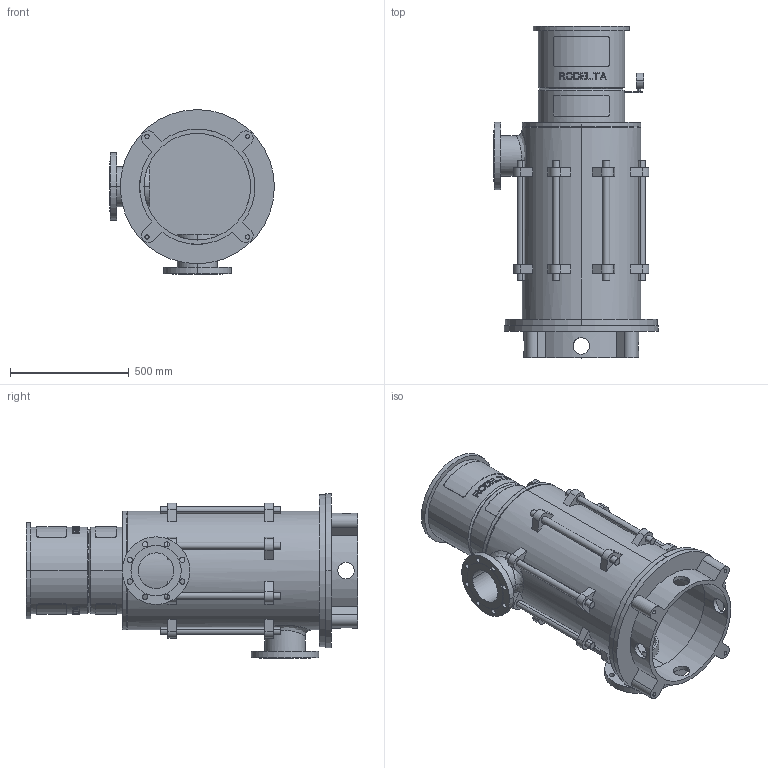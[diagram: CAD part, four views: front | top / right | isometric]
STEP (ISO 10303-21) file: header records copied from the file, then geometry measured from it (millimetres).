
FILE_DESCRIPTION((''),'2;1');
FILE_NAME('LS6_3TR_0GR_TOT_30KW','2023-08-15T',('Lyritlocal'),(''),'PRO/ENGINEER BY PARAMETRIC TECHNOLOGY CORPORATION, 2016360','PRO/ENGINEER BY PARAMETRIC TECHNOLOGY CORPORATION, 2016360','');
FILE_SCHEMA(('CONFIG_CONTROL_DESIGN'));
Length unit declared in the file: millimetre
Products named in the file (1): LS6_3TR_0GR_TOT_30KW
Bounding box: 695 x 1399 x 695 mm (x, y, z)
Volume: 43806544.5 mm3; surface area: 5935224.2 mm2
Topology: 3 solids, 7 shells, 684 faces, 1769 edges, 1174 vertices
Faces by surface type: plane 422, cylinder 242, cone 12, bspline 8
Entity records: 22546 total; most frequent: CARTESIAN_POINT 5926, ORIENTED_EDGE 3522, DIRECTION 3275, EDGE_CURVE 1769, AXIS2_PLACEMENT_3D 1237, VERTEX_POINT 1174, EDGE_LOOP 827, VECTOR 801
